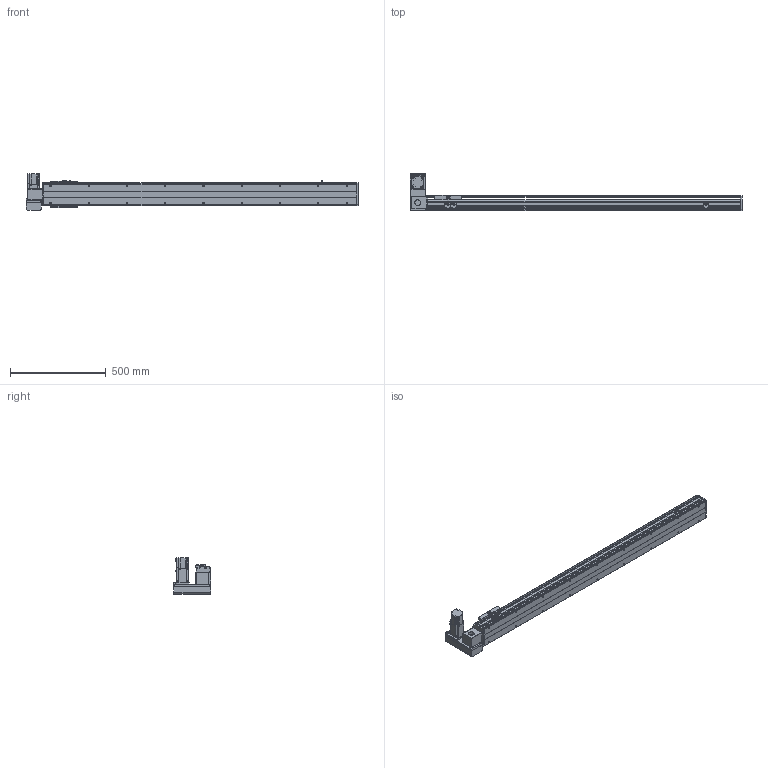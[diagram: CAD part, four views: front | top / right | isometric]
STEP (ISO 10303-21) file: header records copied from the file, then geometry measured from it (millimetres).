
FILE_DESCRIPTION( ( 'STEP AP214' ), '1' );
FILE_NAME( 'x:/temp/worker_27/temp/exporttempdir_6708_112_msVgc/format_0/PBS120-P40-S1350-LU-T40-C1-N(0).stp', '2022-06-06T00:32:00', ( 'License CC BY-ND 4.0' ), ( 'CADENAS' ), ' ', 'PARTsolutions', ' ' );
FILE_SCHEMA( ( 'AUTOMOTIVE_DESIGN { 1 0 10303 214 1 1 1 1 }' ) );
Length unit declared in the file: millimetre
Products named in the file (7): PBS120-P40-S1350-LU-T40-C1-N(0); _PBS120-S1350()_body; _PBS120T-LU_motors; _T40-p1; _PBS120_sliser; _PBS120_plant; _PBS120_sensor
Assembly tree (8 placements, depth 2):
  PBS120-P40-S1350-LU-T40-C1-N(0)
    _PBS120-S1350()_body
    _PBS120T-LU_motors
    _T40-p1
    _PBS120_sliser
    _PBS120_plant
    _PBS120_sensor  x3
Bounding box: 1736 x 198 x 189.7 mm (x, y, z)
Volume: 7100529.1 mm3; surface area: 1415095.2 mm2
Topology: 8 solids, 8 shells, 834 faces, 2166 edges, 1393 vertices
Faces by surface type: plane 551, cylinder 231, cone 50, torus 2
Full cylindrical faces by diameter (mm): 2.459 x6, 3.242 x4, 4 x2, 4.134 x4, 4.5 x10, 4.917 x22, 5.5 x11, 6 x2, 6.6 x1, 7 x2, 8.5 x4, 9 x4, 12 x1, 14 x1, 30 x2, 40 x1, 50 x2
Entity records: 27492 total; most frequent: DIRECTION 3764, CARTESIAN_POINT 3695, ORIENTED_EDGE 3514, EDGE_CURVE 1757, AXIS2_PLACEMENT_3D 1268, LINE 1228, VECTOR 1228, VERTEX_POINT 1199
